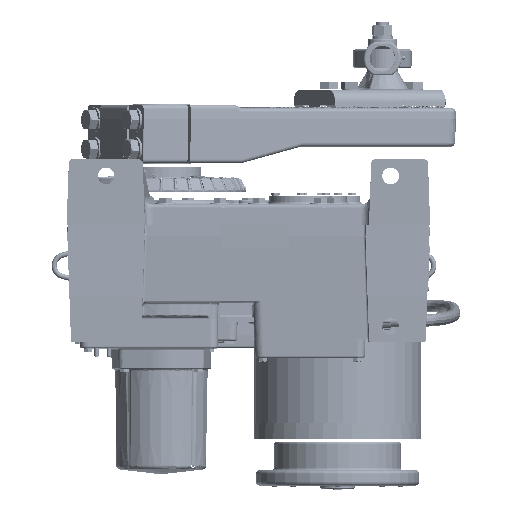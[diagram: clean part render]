
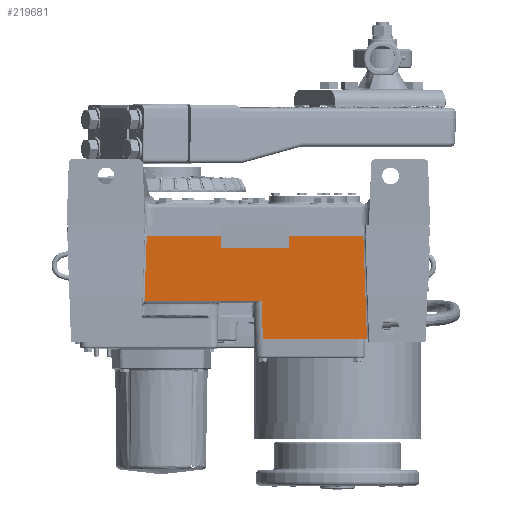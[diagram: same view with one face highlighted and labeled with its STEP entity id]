
A CAD part, front view. The second image highlights one B-rep face of the part: STEP entity #219681.
In plain terms, the highlighted planar face has unit normal (0, -0.999, -0.034).
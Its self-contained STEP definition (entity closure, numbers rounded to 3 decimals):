
#1335 = VERTEX_POINT ( 'NONE', #40120 ) ;
#3342 = VECTOR ( 'NONE', #6066, 39.37 ) ;
#5558 = CARTESIAN_POINT ( 'NONE',  ( -0.935, -8.921, -4.516 ) ) ;
#6066 = DIRECTION ( 'NONE',  ( 1., 0., 0. ) ) ;
#6677 = CARTESIAN_POINT ( 'NONE',  ( -0.875, -9.05, -0.687 ) ) ;
#23988 = EDGE_CURVE ( 'NONE', #25530, #133334, #114767, .T. ) ;
#25530 = VERTEX_POINT ( 'NONE', #218173 ) ;
#27701 = LINE ( 'NONE', #163179, #63811 ) ;
#27705 = VERTEX_POINT ( 'NONE', #56454 ) ;
#31657 =( BOUNDED_CURVE ( )  B_SPLINE_CURVE ( 3, ( #166430, #148577, #5558, #59870 ),
 .UNSPECIFIED., .F., .F. ) 
 B_SPLINE_CURVE_WITH_KNOTS ( ( 4, 4 ),
 ( 2.836, 3.142 ),
 .UNSPECIFIED. ) 
 CURVE ( )  GEOMETRIC_REPRESENTATION_ITEM ( )  RATIONAL_B_SPLINE_CURVE ( ( 1., 0.992, 0.992, 1. ) ) 
 REPRESENTATION_ITEM ( '' )  );
#35168 = EDGE_CURVE ( 'NONE', #164250, #118413, #157855, .T. ) ;
#35817 = ORIENTED_EDGE ( 'NONE', *, *, #215024, .T. ) ;
#36906 = LINE ( 'NONE', #227669, #209352 ) ;
#39187 = FACE_OUTER_BOUND ( 'NONE', #180495, .T. ) ;
#39228 = VECTOR ( 'NONE', #117975, 39.37 ) ;
#40120 = CARTESIAN_POINT ( 'NONE',  ( 3.569, -9.05, -0.687 ) ) ;
#44429 = CARTESIAN_POINT ( 'NONE',  ( 5.987, -8.921, -4.516 ) ) ;
#48384 = EDGE_CURVE ( 'NONE', #109565, #155830, #170638, .T. ) ;
#49867 = CARTESIAN_POINT ( 'NONE',  ( 7.63, -9.05, -0.687 ) ) ;
#50384 = DIRECTION ( 'NONE',  ( 0., -0.034, 0.999 ) ) ;
#51297 = VERTEX_POINT ( 'NONE', #49867 ) ;
#51349 = VECTOR ( 'NONE', #90918, 39.37 ) ;
#55274 = EDGE_CURVE ( 'NONE', #155830, #60666, #31657, .T. ) ;
#56454 = CARTESIAN_POINT ( 'NONE',  ( 6.067, -8.844, -6.826 ) ) ;
#59009 = PLANE ( 'NONE',  #155673 ) ;
#59870 = CARTESIAN_POINT ( 'NONE',  ( -0.897, -8.921, -4.516 ) ) ;
#60666 = VERTEX_POINT ( 'NONE', #175329 ) ;
#63632 = CARTESIAN_POINT ( 'NONE',  ( -0.883, -9.042, -0.922 ) ) ;
#63811 = VECTOR ( 'NONE', #109620, 39.37 ) ;
#66306 = LINE ( 'NONE', #141711, #108187 ) ;
#68177 = VERTEX_POINT ( 'NONE', #44429 ) ;
#72829 = CARTESIAN_POINT ( 'NONE',  ( -7.626, -9.026, -1.401 ) ) ;
#73000 = CARTESIAN_POINT ( 'NONE',  ( 6.073, -8.838, -6.995 ) ) ;
#76875 = DIRECTION ( 'NONE',  ( 0., -0.034, 0.999 ) ) ;
#77386 = ORIENTED_EDGE ( 'NONE', *, *, #35168, .T. ) ;
#79153 = ORIENTED_EDGE ( 'NONE', *, *, #23988, .F. ) ;
#81601 = VECTOR ( 'NONE', #100274, 39.37 ) ;
#84756 = CARTESIAN_POINT ( 'NONE',  ( 12.074, -9.05, -0.687 ) ) ;
#89039 = CARTESIAN_POINT ( 'NONE',  ( 7.63, -9.026, -1.401 ) ) ;
#90918 = DIRECTION ( 'NONE',  ( 0.035, 0.034, -0.999 ) ) ;
#92411 = EDGE_CURVE ( 'NONE', #1335, #25530, #27701, .T. ) ;
#97928 = LINE ( 'NONE', #219030, #3342 ) ;
#98473 = LINE ( 'NONE', #135588, #140137 ) ;
#100274 = DIRECTION ( 'NONE',  ( -0.035, 0.034, -0.999 ) ) ;
#100589 = DIRECTION ( 'NONE',  ( 1., 0., 0. ) ) ;
#102478 = CARTESIAN_POINT ( 'NONE',  ( 12.05, -9.073, -0.001 ) ) ;
#106818 = EDGE_CURVE ( 'NONE', #27705, #164250, #175516, .T. ) ;
#108187 = VECTOR ( 'NONE', #213212, 39.37 ) ;
#109565 = VERTEX_POINT ( 'NONE', #6677 ) ;
#109620 = DIRECTION ( 'NONE',  ( 0., 0.034, -0.999 ) ) ;
#114767 = LINE ( 'NONE', #72829, #161977 ) ;
#116806 = ORIENTED_EDGE ( 'NONE', *, *, #227887, .F. ) ;
#117975 = DIRECTION ( 'NONE',  ( 1., 0., 0. ) ) ;
#118413 = VERTEX_POINT ( 'NONE', #84756 ) ;
#119576 = DIRECTION ( 'NONE',  ( -0.035, -0.034, 0.999 ) ) ;
#122019 = CARTESIAN_POINT ( 'NONE',  ( 12.288, -8.844, -6.826 ) ) ;
#126060 = EDGE_CURVE ( 'NONE', #109565, #1335, #97928, .T. ) ;
#127667 = ORIENTED_EDGE ( 'NONE', *, *, #106818, .T. ) ;
#133334 = VERTEX_POINT ( 'NONE', #89039 ) ;
#135588 = CARTESIAN_POINT ( 'NONE',  ( 12.199, -9.05, -0.687 ) ) ;
#140137 = VECTOR ( 'NONE', #100589, 39.37 ) ;
#140597 = ORIENTED_EDGE ( 'NONE', *, *, #92411, .F. ) ;
#141711 = CARTESIAN_POINT ( 'NONE',  ( -7.626, -8.921, -4.516 ) ) ;
#142714 = ORIENTED_EDGE ( 'NONE', *, *, #197137, .T. ) ;
#148577 = CARTESIAN_POINT ( 'NONE',  ( -0.973, -8.921, -4.522 ) ) ;
#155673 = AXIS2_PLACEMENT_3D ( 'NONE', #200516, #183373, #76875 ) ;
#155830 = VERTEX_POINT ( 'NONE', #229452 ) ;
#157855 = LINE ( 'NONE', #102478, #199568 ) ;
#161977 = VECTOR ( 'NONE', #215161, 39.37 ) ;
#163179 = CARTESIAN_POINT ( 'NONE',  ( 3.569, -9.05, -0.687 ) ) ;
#164250 = VERTEX_POINT ( 'NONE', #122019 ) ;
#166009 = ORIENTED_EDGE ( 'NONE', *, *, #55274, .T. ) ;
#166430 = CARTESIAN_POINT ( 'NONE',  ( -1.009, -8.921, -4.534 ) ) ;
#170638 = LINE ( 'NONE', #63632, #81601 ) ;
#175329 = CARTESIAN_POINT ( 'NONE',  ( -0.897, -8.921, -4.516 ) ) ;
#175516 = LINE ( 'NONE', #224462, #39228 ) ;
#180495 = EDGE_LOOP ( 'NONE', ( #140597, #198871, #187649, #166009, #142714, #35817, #127667, #77386, #116806, #204977, #79153 ) ) ;
#183373 = DIRECTION ( 'NONE',  ( 0., 0.999, 0.034 ) ) ;
#187649 = ORIENTED_EDGE ( 'NONE', *, *, #48384, .T. ) ;
#193171 = LINE ( 'NONE', #73000, #51349 ) ;
#193455 = EDGE_CURVE ( 'NONE', #133334, #51297, #36906, .T. ) ;
#197137 = EDGE_CURVE ( 'NONE', #60666, #68177, #66306, .T. ) ;
#198871 = ORIENTED_EDGE ( 'NONE', *, *, #126060, .F. ) ;
#199568 = VECTOR ( 'NONE', #119576, 39.37 ) ;
#200516 = CARTESIAN_POINT ( 'NONE',  ( -7.626, -9.05, -0.687 ) ) ;
#204977 = ORIENTED_EDGE ( 'NONE', *, *, #193455, .F. ) ;
#209352 = VECTOR ( 'NONE', #50384, 39.37 ) ;
#213212 = DIRECTION ( 'NONE',  ( 1., 0., 0. ) ) ;
#215024 = EDGE_CURVE ( 'NONE', #68177, #27705, #193171, .T. ) ;
#215161 = DIRECTION ( 'NONE',  ( 1., 0., 0. ) ) ;
#218173 = CARTESIAN_POINT ( 'NONE',  ( 3.569, -9.026, -1.401 ) ) ;
#219030 = CARTESIAN_POINT ( 'NONE',  ( 12.199, -9.05, -0.687 ) ) ;
#219681 = ADVANCED_FACE ( 'NONE', ( #39187 ), #59009, .F. ) ;
#224462 = CARTESIAN_POINT ( 'NONE',  ( -7.626, -8.844, -6.826 ) ) ;
#227669 = CARTESIAN_POINT ( 'NONE',  ( 7.63, -9.05, -0.687 ) ) ;
#227887 = EDGE_CURVE ( 'NONE', #51297, #118413, #98473, .T. ) ;
#229452 = CARTESIAN_POINT ( 'NONE',  ( -1.009, -8.921, -4.534 ) ) ;
